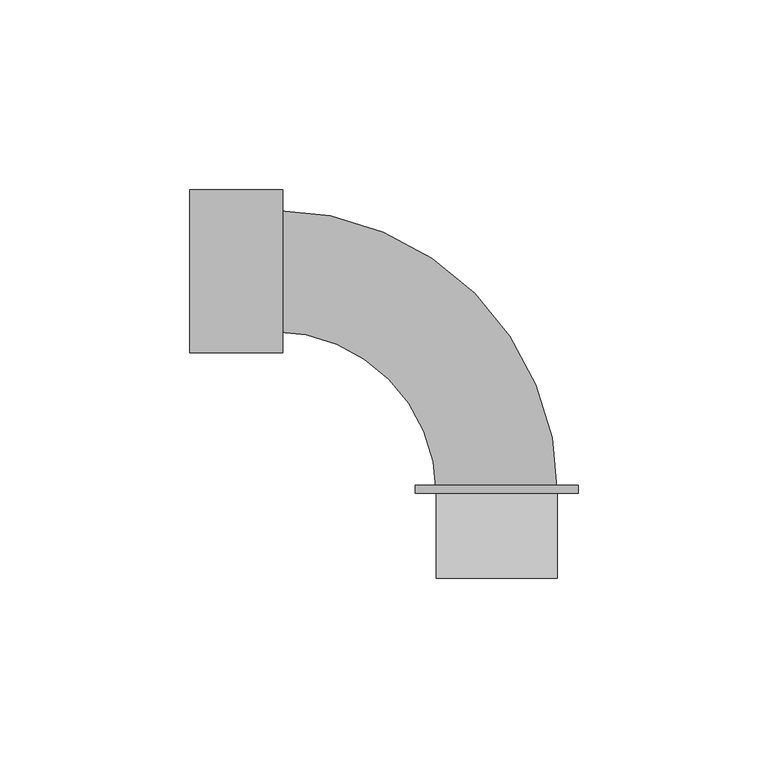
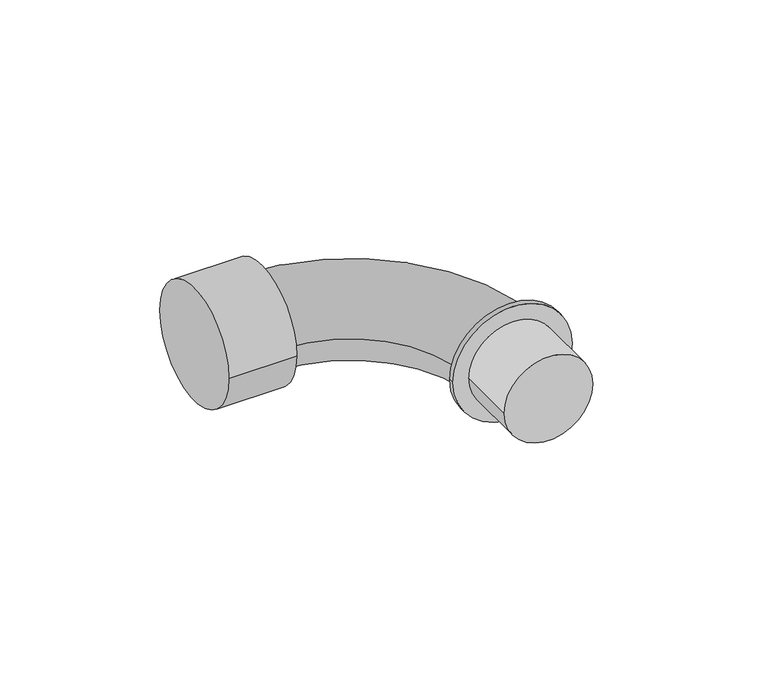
"""IFC4 building model written with IfcOpenShell, lengths in millimetres: pipe fitting geometry, 01051160 : Curva a 90º M/F."""

from ifc_helpers import new_model, si_unit, point, frame, origin, origin_2d, place, context, project, spatial, circle_curve, ellipse_curve, trimmed, segment, composite_curve, outline, extrude, source, transform, mapped, element, save
from ifc_brep_helpers import plane_surface, revolved_surface, advanced_brep


def pipe_fitting_1c9549da(model_context):
    return source(origin(), model_context, "Body", "SolidModel", [
        extrude(outline(composite_curve([segment(trimmed(circle_curve(origin_2d(), 21.5), [point((0.0, -21.5))], [point((0.0, 21.5))], False, "CARTESIAN"), True, "CONTINUOUS"), segment(trimmed(circle_curve(origin_2d(), 21.5), [point((0.0, 21.5))], [point((0.0, -21.5))], False, "CARTESIAN"), True, "CONTINUOUS")], self_intersect=False)), frame((0.0, -58.5, 0.0), z_axis=(0.0, 1.0, 0.0), x_axis=(0.0, 0.0, 1.0)), (0.0, 0.0, 1.0), 2.0),
        extrude(outline(composite_curve([segment(trimmed(circle_curve(origin_2d(), 21.5), [point((21.5, 0.0))], [point((-21.5, 0.0))], False, "CARTESIAN"), True, "CONTINUOUS"), segment(trimmed(circle_curve(origin_2d(), 21.5), [point((-21.5, 0.0))], [point((21.5, 0.0))], False, "CARTESIAN"), True, "CONTINUOUS")], self_intersect=False)), frame((-81.0, 0.0, 0.0), z_axis=(1.0, 0.0, 0.0), x_axis=(0.0, 1.0, 0.0)), (0.0, 0.0, 1.0), 24.5),
        extrude(outline(composite_curve([segment(trimmed(circle_curve(origin_2d(), 16.0), [point((0.0, -16.0))], [point((0.0, 16.0))], False, "CARTESIAN"), True, "CONTINUOUS"), segment(trimmed(circle_curve(origin_2d(), 16.0), [point((0.0, 16.0))], [point((0.0, -16.0))], False, "CARTESIAN"), True, "CONTINUOUS")], self_intersect=False)), frame((0.0, -81.0, 0.0), z_axis=(0.0, 1.0, 0.0), x_axis=(0.0, 0.0, 1.0)), (0.0, 0.0, 1.0), 22.5),
        advanced_brep(
        [(-16.0, -58.5, 0.0), (16.0, -58.5, 0.0), (-58.5, -16.0, 0.0), (-58.5, 16.0, 0.0)],
        [
            (0, 1, circle_curve(frame((0.0, -58.5, 0.0), z_axis=(0.0, -1.0, 0.0), x_axis=(1.0, 0.0, 0.0)), 16.0)),
            (1, 0, circle_curve(frame((0.0, -58.5, 0.0), z_axis=(0.0, -1.0, 0.0), x_axis=(1.0, 0.0, 0.0)), 16.0)),
            (2, 3, circle_curve(frame((-58.5, 0.0, 0.0), z_axis=(-1.0, 0.0, 0.0), x_axis=(0.0, 1.0, 0.0)), 16.0)),
            (3, 2, circle_curve(frame((-58.5, 0.0, 0.0), z_axis=(-1.0, 0.0, 0.0), x_axis=(0.0, 1.0, 0.0)), 16.0)),
            (2, 0, circle_curve(frame((-58.5, -58.5, 0.0), z_axis=(0.0, 0.0, -1.0), x_axis=(1.0, 0.0, 0.0)), 42.5)),
            (1, 3, circle_curve(frame((-58.5, -58.5, 0.0), z_axis=(0.0, 0.0, 1.0), x_axis=(1.0, 0.0, 0.0)), 74.5)),
        ],
        [
            plane_surface(frame((0.0, -58.5, 0.0), z_axis=(0.0, -1.0, 0.0), x_axis=(0.0, 0.0, 1.0))),
            plane_surface(frame((-58.5, 0.0, 0.0), z_axis=(-1.0, 0.0, 0.0), x_axis=(0.0, 0.0, 1.0))),
            revolved_surface(trimmed(ellipse_curve(frame((0.0, -58.5, 0.0), z_axis=(0.0, 1.0, 0.0), x_axis=(1.0, 0.0, 0.0)), 16.0, 16.0), [point((-16.0, -58.5, 0.0))], [point((16.0, -58.5, 0.0))], True, "CARTESIAN"), (-58.5, -58.5, 0.0), (0.0, 0.0, -1.0)),
            revolved_surface(trimmed(ellipse_curve(frame((0.0, -58.5, 0.0), z_axis=(0.0, 1.0, 0.0), x_axis=(1.0, 0.0, 0.0)), 16.0, 16.0), [point((16.0, -58.5, 0.0))], [point((-16.0, -58.5, 0.0))], True, "CARTESIAN"), (-58.5, -58.5, 0.0), (0.0, 0.0, -1.0)),
        ],
        [
            (0, [[1, 2]]),
            (1, [[3, 4]]),
            (2, [[-3, 5, -2, 6]]),
            (3, [[-4, -6, -1, -5]]),
        ],
    ),
    ])


if __name__ == "__main__":
    model = new_model("IFC4")
    model_context = context("Model", 3, world=origin())
    ifc_project = project(units=[si_unit("LENGTHUNIT", "METRE", prefix="MILLI")], contexts=[model_context])
    site = spatial("IfcSite", under=ifc_project)
    building = spatial("IfcBuilding", under=site)
    placement = place(None, origin())
    pipe_fitting_shape = pipe_fitting_1c9549da(model_context)
    element("IfcPipeFitting", 1, ObjectType="01051160 : Curva a 90º M/F", at=placement, inside=building, context=model_context, shape_type="MappedRepresentation", body=[
        mapped(pipe_fitting_shape, transform((0.0, 0.0, 0.0), x_axis=(1.0, 0.0, 0.0), y_axis=(0.0, 1.0, 0.0), z_axis=(0.0, 0.0, 1.0))),
    ])
    save(model, "model.ifc")
